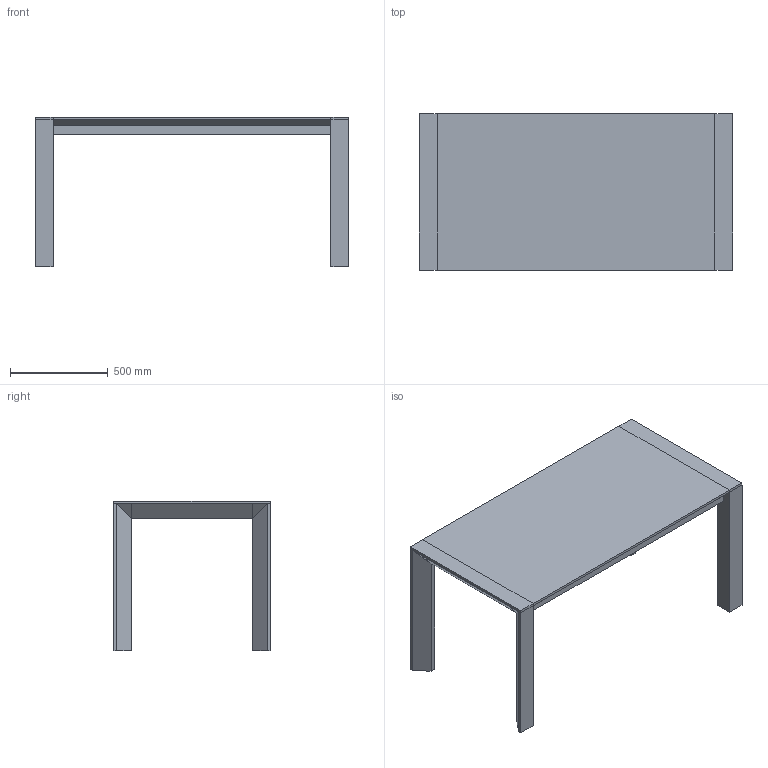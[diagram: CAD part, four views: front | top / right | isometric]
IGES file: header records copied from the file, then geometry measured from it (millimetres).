
Global section: file name: M:\STUDIO polstrin\BA _Datab; native system: Rhinoceros ( May 22 2017 ); preprocessor: Trout Lake IGES 012 May 22 2017; date: 180702.084157; units: millimetre
Bounding box: 1600 x 800 x 765 mm (x, y, z)
Surface area: 5169795.7 mm2 (no closed solid volume)
Topology: 0 solids, 0 shells, 90 faces, 467 edges, 565 vertices
Faces by surface type: bspline 90
